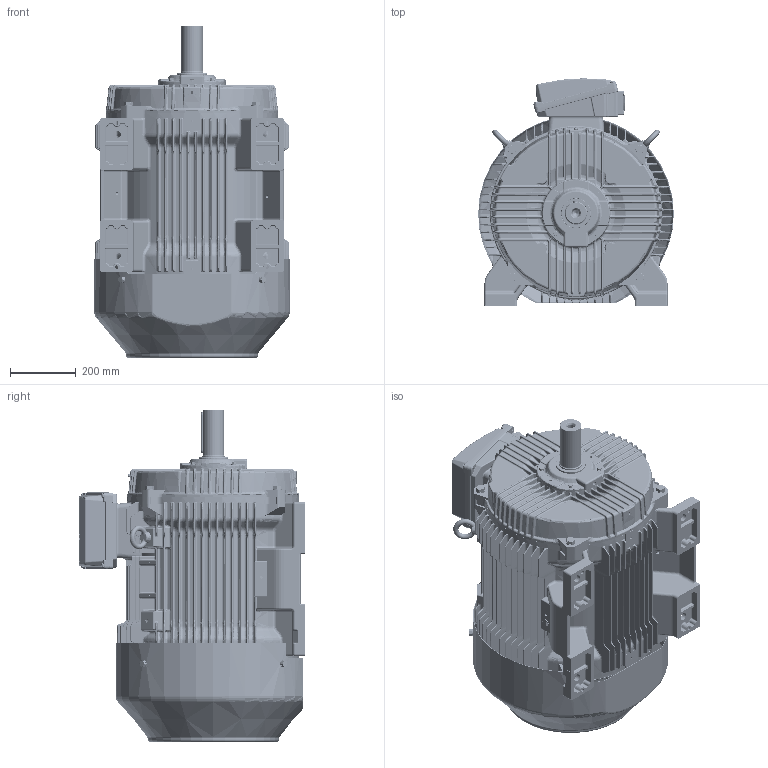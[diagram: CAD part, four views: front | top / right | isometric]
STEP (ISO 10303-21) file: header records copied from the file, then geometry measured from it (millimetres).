
FILE_DESCRIPTION (( 'STEP AP203' ), '1' );
FILE_NAME ('0228001125_RevB.STEP', '2023-06-16T12:14:58', ( '' ), ( '' ), 'SwSTEP 2.0', 'SolidWorks 2021', '' );
FILE_SCHEMA (( 'CONFIG_CONTROL_DESIGN' ));
Length unit declared in the file: inch
Products named in the file (1): 0228001125_RevB
Bounding box: 595 x 690.06 x 1009.5 mm (x, y, z)
Volume: 32188128.7 mm3; surface area: 7532882.6 mm2
Topology: 73 solids, 75 shells, 16272 faces, 39834 edges, 23339 vertices
Faces by surface type: bspline 5468, cylinder 4761, plane 2838, torus 1598, cone 1194, sphere 413
Entity records: 740676 total; most frequent: CARTESIAN_POINT 400823, ORIENTED_EDGE 78544, DIRECTION 62302, EDGE_CURVE 39272, AXIS2_PLACEMENT_3D 26085, VERTEX_POINT 23292, EDGE_LOOP 17408, FACE_OUTER_BOUND 16268
